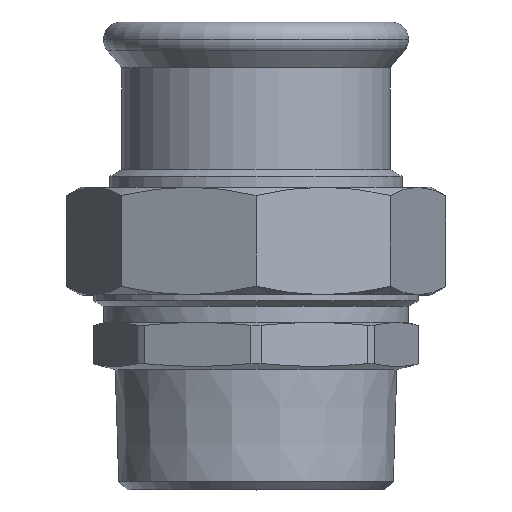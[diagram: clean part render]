
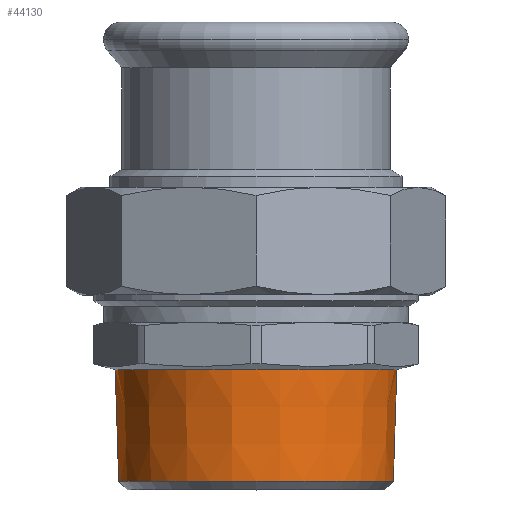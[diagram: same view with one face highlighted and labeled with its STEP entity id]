
A CAD part, top view. The second image highlights one B-rep face of the part: STEP entity #44130.
In plain terms, the highlighted conical face has half-angle 1.79 degrees and reference radius 30.113 mm.
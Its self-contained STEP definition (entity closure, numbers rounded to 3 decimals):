
#42560=CARTESIAN_POINT('',(133.87,7.58,
0.));
#42570=VERTEX_POINT('',#42560);
#43680=CARTESIAN_POINT('',(194.096,7.58,0.));
#43690=VERTEX_POINT('',#43680);
#43720=CARTESIAN_POINT('',(163.983,7.58,0.));
#43730=DIRECTION('',(0.,1.,0.));
#43740=DIRECTION('',(1.,0.,0.));
#43750=AXIS2_PLACEMENT_3D('',#43720,#43730,#43740);
#43760=CIRCLE('',#43750,30.113);
#43770=EDGE_CURVE('',#42570,#43690,#43760,.T.);
#43820=CARTESIAN_POINT('',(163.983,7.58,0.));
#43830=DIRECTION('',(0.,1.,0.));
#43840=DIRECTION('',(1.,0.,0.));
#43850=AXIS2_PLACEMENT_3D('',#43820,#43830,#43840);
#43860=CONICAL_SURFACE('',#43850,30.113,0.031);
#43870=CARTESIAN_POINT('',(133.87,7.58,
0.));
#43880=DIRECTION('',(-0.031,1.,
0.));
#43890=VECTOR('',#43880,1.);
#43900=LINE('',#43870,#43890);
#43910=CARTESIAN_POINT('',(134.617,-16.32,
0.));
#43920=VERTEX_POINT('',#43910);
#43930=EDGE_CURVE('',#43920,#42570,#43900,.T.);
#43940=ORIENTED_EDGE('',*,*,#43930,.F.);
#43950=ORIENTED_EDGE('',*,*,#43770,.F.);
#43960=CARTESIAN_POINT('',(194.096,7.58,0.));
#43970=DIRECTION('',(0.031,1.,0.));
#43980=VECTOR('',#43970,1.);
#43990=LINE('',#43960,#43980);
#44000=CARTESIAN_POINT('',(193.349,-16.32,0.));
#44010=VERTEX_POINT('',#44000);
#44020=EDGE_CURVE('',#44010,#43690,#43990,.T.);
#44030=ORIENTED_EDGE('',*,*,#44020,.T.);
#44040=CARTESIAN_POINT('',(163.983,-16.32,0.));
#44050=DIRECTION('',(0.,1.,0.));
#44060=DIRECTION('',(1.,0.,0.));
#44070=AXIS2_PLACEMENT_3D('',#44040,#44050,#44060);
#44080=CIRCLE('',#44070,29.366);
#44090=EDGE_CURVE('',#43920,#44010,#44080,.T.);
#44100=ORIENTED_EDGE('',*,*,#44090,.T.);
#44110=EDGE_LOOP('',(#44100,#44030,#43950,#43940));
#44120=FACE_OUTER_BOUND('',#44110,.T.);
#44130=ADVANCED_FACE('',(#44120),#43860,.T.);
